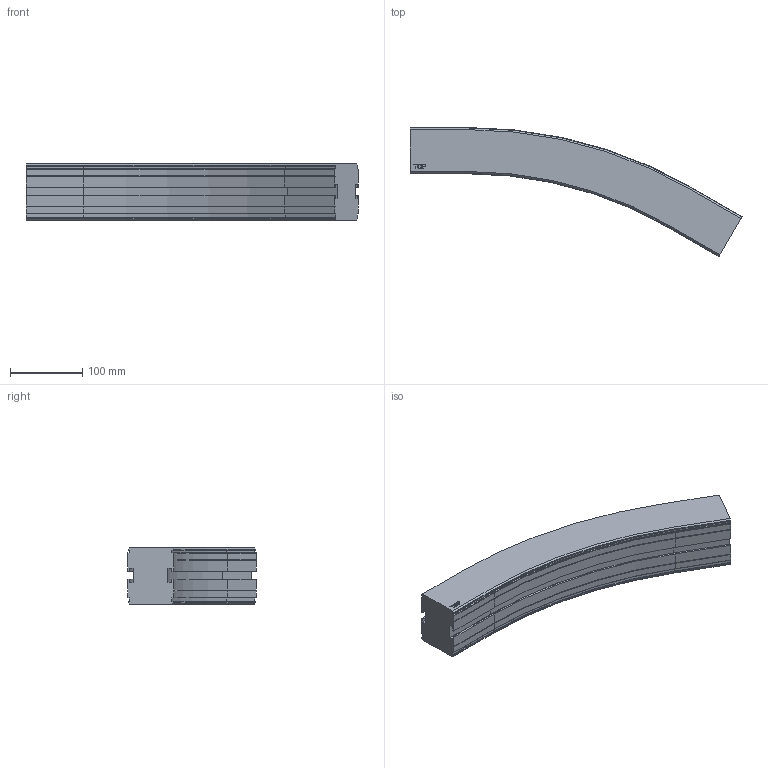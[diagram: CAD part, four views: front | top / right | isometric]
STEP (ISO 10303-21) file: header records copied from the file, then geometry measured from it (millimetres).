
FILE_DESCRIPTION((''),'2;1');
FILE_NAME('C:\Vault Klient\Projekt\Koncept konstruktion\Serie 620 Balk\620-5340.stp','2009-11-26T15:28:01',('Mathias'),(''),'Autodesk Inventor 2010','Autodesk Inventor 2010','');
FILE_SCHEMA(('AUTOMOTIVE_DESIGN { 1 0 10303 214 1 1 1 1 }'));
Length unit declared in the file: millimetre
Products named in the file (1): 620-5340
Bounding box: 459.78 x 178.62 x 78 mm (x, y, z)
Volume: 2178259.5 mm3; surface area: 178173.2 mm2
Topology: 1 solids, 1 shells, 169 faces, 446 edges, 284 vertices
Faces by surface type: plane 109, cylinder 30, bspline 14, cone 12, torus 4
Entity records: 5295 total; most frequent: CARTESIAN_POINT 1094, ORIENTED_EDGE 892, DIRECTION 802, EDGE_CURVE 446, VECTOR 346, LINE 346, VERTEX_POINT 284, AXIS2_PLACEMENT_3D 228
